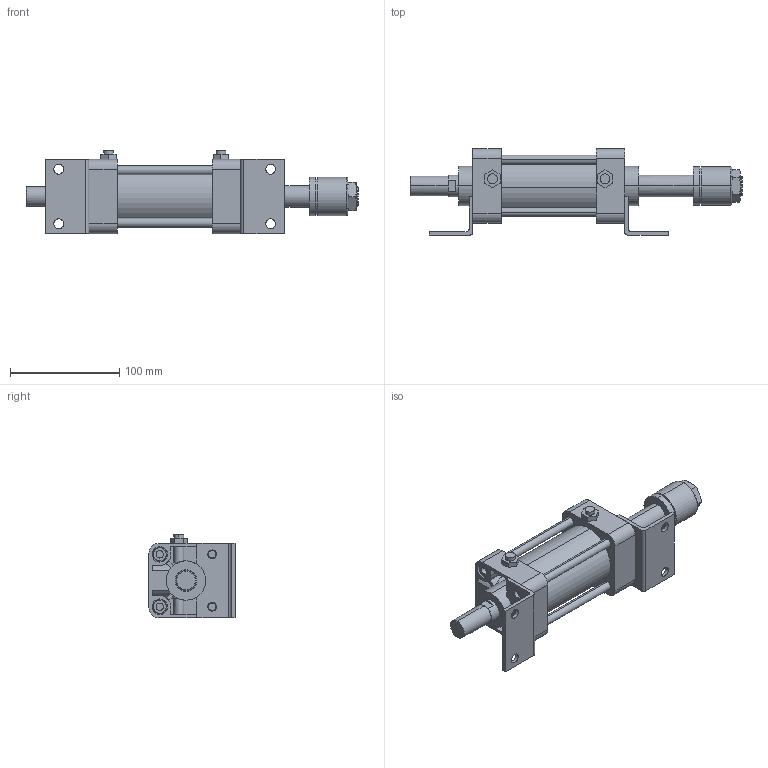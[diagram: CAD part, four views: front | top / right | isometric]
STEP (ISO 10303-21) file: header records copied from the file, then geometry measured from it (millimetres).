
FILE_DESCRIPTION (( 'STEP AP203' ), '1' );
FILE_NAME ('KGA7-50#-50-L.STEP', '2016-04-14T07:50:01', ( '' ), ( '' ), 'SwSTEP 2.0', 'SolidWorks 2014', '' );
FILE_SCHEMA (( 'CONFIG_CONTROL_DESIGN' ));
Length unit declared in the file: millimetre
Products named in the file (9): KGA7-50(63)-Turn; K-50-L; K#7-50-50-After; KGA7-50#-50-L; KGLH2-50-50
Assembly tree (19 placements, depth 2):
  KGA7-50#-50-L
    K#7-50-50-After
    KGLH2-50-50
    (unnamed)
    (unnamed)  x4
    (unnamed)  x8
    K-50-L  x2
    KGA7-50(63)-Turn
    (unnamed)
Bounding box: 304 x 79 x 76.3 mm (x, y, z)
Volume: 526690.1 mm3; surface area: 135356.3 mm2
Topology: 19 solids, 23 shells, 419 faces, 978 edges, 624 vertices
Faces by surface type: plane 181, cylinder 164, torus 46, cone 28
Entity records: 10605 total; most frequent: CARTESIAN_POINT 2007, DIRECTION 1614, ORIENTED_EDGE 1468, EDGE_CURVE 734, AXIS2_PLACEMENT_3D 615, VERTEX_POINT 478, LINE 384, VECTOR 384
